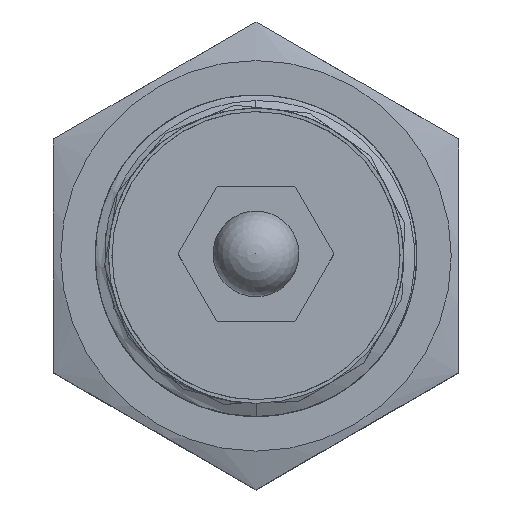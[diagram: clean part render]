
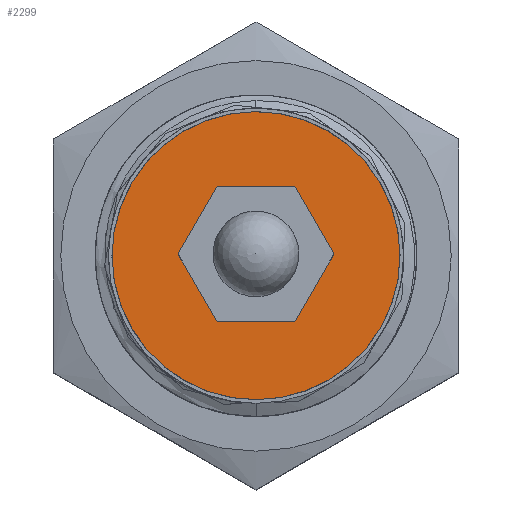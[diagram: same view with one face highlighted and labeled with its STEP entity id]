
A CAD part, top view. The second image highlights one B-rep face of the part: STEP entity #2299.
In plain terms, the highlighted planar face has unit normal (0, 0, 1) as drawn and (0, 0, -1) by its records, which use the part's own axes.
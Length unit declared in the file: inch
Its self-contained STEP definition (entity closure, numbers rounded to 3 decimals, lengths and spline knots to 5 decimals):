
#132=FACE_BOUND('',#409,.T.);
#150=PLANE('',#2618);
#257=FACE_OUTER_BOUND('',#408,.T.);
#408=EDGE_LOOP('',(#1729));
#409=EDGE_LOOP('',(#1730));
#540=CIRCLE('',#2612,0.135);
#543=CIRCLE('',#2616,0.336);
#1042=VERTEX_POINT('',#8177);
#1045=VERTEX_POINT('',#8185);
#1296=EDGE_CURVE('',#1042,#1042,#540,.T.);
#1301=EDGE_CURVE('',#1045,#1045,#543,.T.);
#1729=ORIENTED_EDGE('',*,*,#1301,.F.);
#1730=ORIENTED_EDGE('',*,*,#1296,.T.);
#2299=ADVANCED_FACE('',(#257,#132),#150,.F.);
#2612=AXIS2_PLACEMENT_3D('',#8178,#2928,#2929);
#2616=AXIS2_PLACEMENT_3D('',#8187,#2938,#2939);
#2618=AXIS2_PLACEMENT_3D('',#8189,#2942,#2943);
#2928=DIRECTION('center_axis',(0.,0.,1.));
#2929=DIRECTION('ref_axis',(1.,0.,0.));
#2938=DIRECTION('center_axis',(0.,0.,1.));
#2939=DIRECTION('ref_axis',(1.,0.,0.));
#2942=DIRECTION('center_axis',(0.,0.,1.));
#2943=DIRECTION('ref_axis',(1.,0.,0.));
#8177=CARTESIAN_POINT('',(-0.135,0.,0.));
#8178=CARTESIAN_POINT('Origin',(0.,0.,0.));
#8185=CARTESIAN_POINT('',(-0.336,0.,0.));
#8187=CARTESIAN_POINT('Origin',(0.,0.,0.));
#8189=CARTESIAN_POINT('Origin',(0.,0.,0.));
